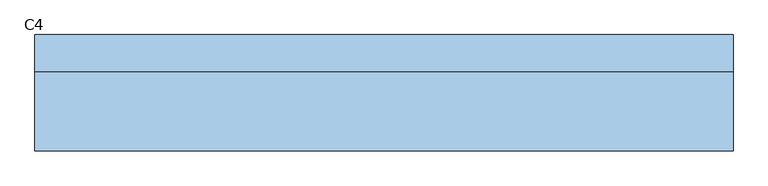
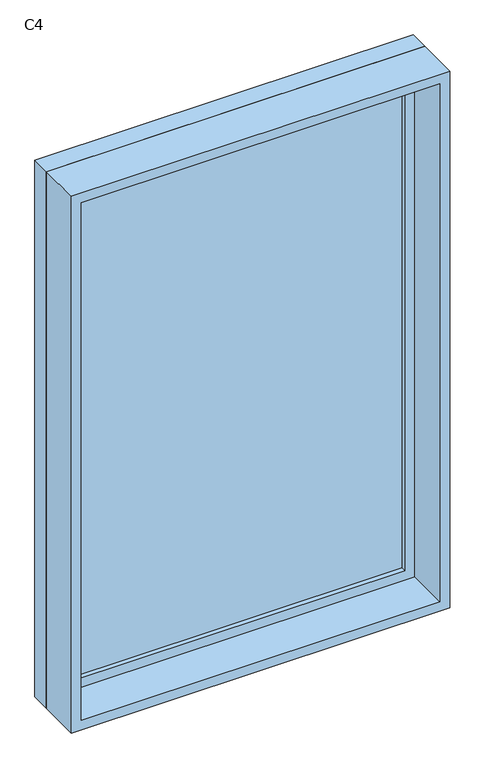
"""IFC4 building model written with IfcOpenShell, lengths in millimetres: window geometry, 固定 : C4."""

from ifc_helpers import new_model, si_unit, frame, origin, place, context, project, spatial, polyline, outline, extrude, source, transform, mapped, element, save


def c4_3407baf4(model_context):
    return source(origin(), model_context, "Body", "SweptSolid", [
        extrude(outline(polyline([(-537.0, 78.0), (537.0, 78.0), (537.0, 66.0), (-537.0, 66.0), (-537.0, 78.0)])), frame((0.0, 0.0, 963.0), z_axis=(0.0, 0.0, 1.0), x_axis=(1.0, 0.0, 0.0)), (0.0, 0.0, 1.0), 1674.0),
        extrude(outline(polyline([(2681.0, -581.0), (919.0, -581.0), (919.0, 581.0), (2681.0, 581.0), (2681.0, -581.0)]), holes=[polyline([(2637.0, -537.0), (2637.0, 537.0), (963.0, 537.0), (963.0, -537.0), (2637.0, -537.0)])]), frame((0.0, 50.0, 0.0), z_axis=(0.0, 1.0, 0.0), x_axis=(0.0, 0.0, 1.0)), (0.0, 0.0, 1.0), 44.0),
        extrude(outline(polyline([(2700.0, -600.0), (900.0, -600.0), (900.0, 600.0), (2700.0, 600.0), (2700.0, -600.0)]), holes=[polyline([(2681.0, -581.0), (2681.0, 581.0), (919.0, 581.0), (919.0, -581.0), (2681.0, -581.0)])]), frame((0.0, 50.0, 0.0), z_axis=(0.0, 1.0, 0.0), x_axis=(0.0, 0.0, 1.0)), (0.0, 0.0, 1.0), 63.0),
        extrude(outline(polyline([(2700.0, -600.0), (900.0, -600.0), (900.0, 600.0), (2700.0, 600.0), (2700.0, -600.0)]), holes=[polyline([(2668.0, -568.0), (2668.0, 568.0), (932.0, 568.0), (932.0, -568.0), (2668.0, -568.0)])]), frame((0.0, -87.0, 0.0), z_axis=(0.0, 1.0, 0.0), x_axis=(0.0, 0.0, 1.0)), (0.0, 0.0, 1.0), 137.0),
    ])


if __name__ == "__main__":
    model = new_model("IFC4")
    model_context = context("Model", 3, world=origin())
    ifc_project = project(units=[si_unit("LENGTHUNIT", "METRE", prefix="MILLI")], contexts=[model_context])
    site = spatial("IfcSite", under=ifc_project)
    building = spatial("IfcBuilding", under=site)
    placement = place(None, origin())
    c4_shape = c4_3407baf4(model_context)
    element("IfcWindow", 1, ObjectType="固定 : C4", at=placement, inside=building, context=model_context, shape_type="MappedRepresentation", body=[
        mapped(c4_shape, transform((0.0, 0.0, 0.0), x_axis=(1.0, 0.0, 0.0), y_axis=(0.0, 1.0, 0.0), z_axis=(0.0, 0.0, 1.0))),
    ])
    save(model, "model.ifc")
